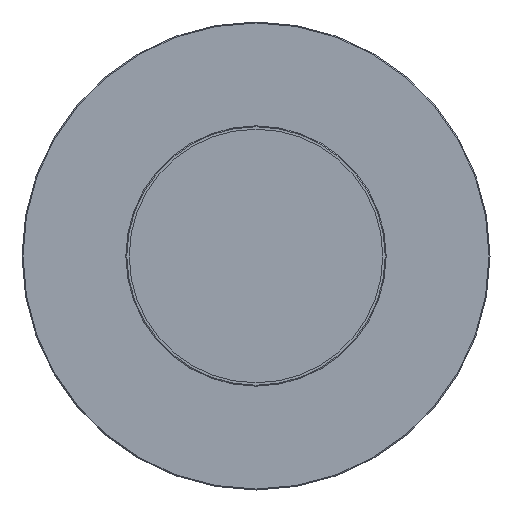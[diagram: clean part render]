
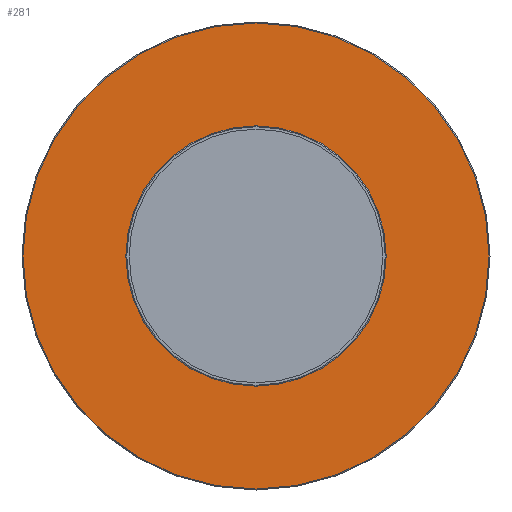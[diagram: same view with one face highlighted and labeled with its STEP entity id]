
A CAD part, front view. The second image highlights one B-rep face of the part: STEP entity #281.
In plain terms, the highlighted planar face has unit normal (0, -1, 0).
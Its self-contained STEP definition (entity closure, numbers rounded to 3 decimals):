
#110=CARTESIAN_POINT('',(0.,457.451,-19.75));
#111=VERTEX_POINT('',#110);
#112=CARTESIAN_POINT('',(0.,457.451,0.));
#113=DIRECTION('',(0.0,1.0,0.0));
#114=DIRECTION('',(0.0,0.0,1.0));
#115=AXIS2_PLACEMENT_3D('',#112,#113,#114);
#116=CIRCLE('',#115,19.75);
#117=EDGE_CURVE('',#111,#111,#116,.T.);
#258=CARTESIAN_POINT('',(0.,457.451,-239.));
#259=VERTEX_POINT('',#258);
#260=CARTESIAN_POINT('',(0.,457.451,0.));
#261=DIRECTION('',(0.0,1.0,0.0));
#262=DIRECTION('',(0.0,0.0,1.0));
#263=AXIS2_PLACEMENT_3D('',#260,#261,#262);
#264=CIRCLE('',#263,239.0);
#265=EDGE_CURVE('',#259,#259,#264,.T.);
#270=CARTESIAN_POINT('',(0.,457.451,0.));
#271=DIRECTION('',(0.0,-1.0,0.0));
#272=DIRECTION('',(0.0,0.0,1.0));
#273=AXIS2_PLACEMENT_3D('',#270,#271,#272);
#274=PLANE('',#273);
#275=ORIENTED_EDGE('',*,*,#265,.F.);
#276=EDGE_LOOP('',(#275));
#277=FACE_OUTER_BOUND('',#276,.T.);
#278=ORIENTED_EDGE('',*,*,#117,.T.);
#279=EDGE_LOOP('',(#278));
#280=FACE_BOUND('',#279,.T.);
#281=ADVANCED_FACE('',(#277,#280),#274,.T.);
